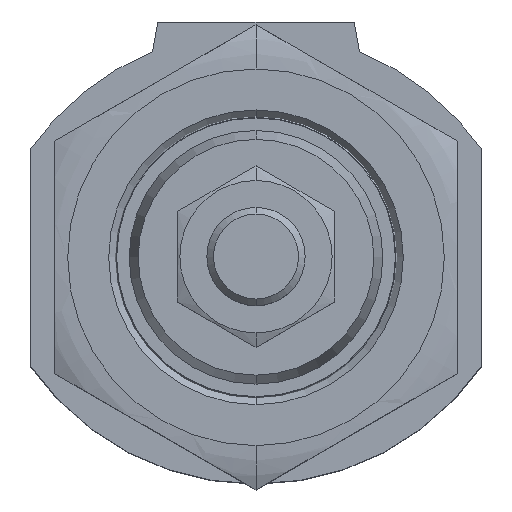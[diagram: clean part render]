
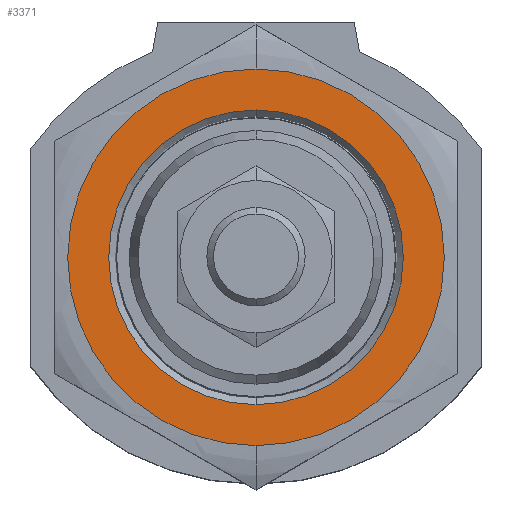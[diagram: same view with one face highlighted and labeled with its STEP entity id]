
A CAD part, top view. The second image highlights one B-rep face of the part: STEP entity #3371.
In plain terms, the highlighted planar face has unit normal (0, 0, 1).
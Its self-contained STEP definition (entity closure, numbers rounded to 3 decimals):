
#3070=CARTESIAN_POINT('',(0.,0.,0.));
#3071=DIRECTION('',(0.,0.,-1.));
#3072=DIRECTION('',(0.,1.,0.));
#3073=AXIS2_PLACEMENT_3D('',#3070,#3071,#3072);
#3075=CARTESIAN_POINT('',(0.,0.,0.));
#3076=DIRECTION('',(0.,0.,-1.));
#3077=DIRECTION('',(0.,-1.,0.));
#3078=AXIS2_PLACEMENT_3D('',#3075,#3076,#3077);
#3080=CARTESIAN_POINT('',(0.,0.,0.));
#3081=DIRECTION('',(0.,0.,-1.));
#3082=DIRECTION('',(0.,1.,0.));
#3083=AXIS2_PLACEMENT_3D('',#3080,#3081,#3082);
#3085=CARTESIAN_POINT('',(0.,0.,0.));
#3086=DIRECTION('',(0.,0.,-1.));
#3087=DIRECTION('',(0.,-1.,0.));
#3088=AXIS2_PLACEMENT_3D('',#3085,#3086,#3087);
#3324=CARTESIAN_POINT('',(0.,15.,0.));
#3325=CARTESIAN_POINT('',(0.,-15.,0.));
#3326=VERTEX_POINT('',#3324);
#3327=VERTEX_POINT('',#3325);
#3328=CARTESIAN_POINT('',(0.,19.171,0.));
#3329=CARTESIAN_POINT('',(0.,-19.171,0.));
#3330=VERTEX_POINT('',#3328);
#3331=VERTEX_POINT('',#3329);
#3354=CARTESIAN_POINT('',(0.,0.,0.));
#3355=DIRECTION('',(0.,0.,-1.));
#3356=DIRECTION('',(-1.,0.,0.));
#3357=AXIS2_PLACEMENT_3D('',#3354,#3355,#3356);
#3358=PLANE('',#3357);
#3360=ORIENTED_EDGE('',*,*,#3359,.T.);
#3362=ORIENTED_EDGE('',*,*,#3361,.T.);
#3363=EDGE_LOOP('',(#3360,#3362));
#3364=FACE_OUTER_BOUND('',#3363,.F.);
#3366=ORIENTED_EDGE('',*,*,#3365,.F.);
#3368=ORIENTED_EDGE('',*,*,#3367,.F.);
#3369=EDGE_LOOP('',(#3366,#3368));
#3370=FACE_BOUND('',#3369,.F.);
#3371=ADVANCED_FACE('',(#3364,#3370),#3358,.F.);
#3074=CIRCLE('',#3073,15.);
#3079=CIRCLE('',#3078,15.);
#3084=CIRCLE('',#3083,19.171);
#3089=CIRCLE('',#3088,19.171);
#3359=EDGE_CURVE('',#3330,#3331,#3084,.T.);
#3361=EDGE_CURVE('',#3331,#3330,#3089,.T.);
#3365=EDGE_CURVE('',#3326,#3327,#3074,.T.);
#3367=EDGE_CURVE('',#3327,#3326,#3079,.T.);
